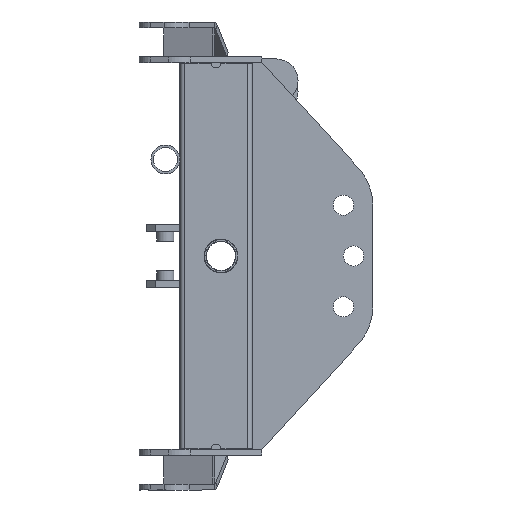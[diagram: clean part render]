
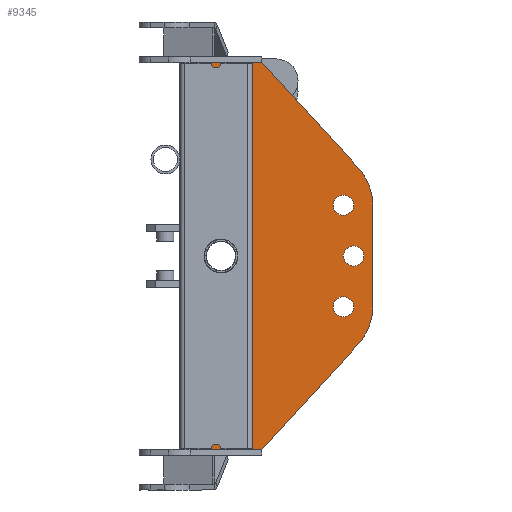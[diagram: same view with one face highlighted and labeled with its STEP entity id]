
A CAD part, front view. The second image highlights one B-rep face of the part: STEP entity #9345.
In plain terms, the highlighted planar face has unit normal (0, -1, 0).
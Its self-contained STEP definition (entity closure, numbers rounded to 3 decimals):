
#169 = DIRECTION ( 'NONE',  ( 0., 1., 0. ) ) ;
#335 = DIRECTION ( 'NONE',  ( 0.676, 0., -0.737 ) ) ;
#387 = AXIS2_PLACEMENT_3D ( 'NONE', #11120, #1134, #7557 ) ;
#504 = EDGE_CURVE ( 'NONE', #3840, #2780, #6147, .T. ) ;
#528 = VERTEX_POINT ( 'NONE', #2517 ) ;
#624 = LINE ( 'NONE', #878, #9296 ) ;
#658 = VECTOR ( 'NONE', #1609, 1000. ) ;
#713 = ORIENTED_EDGE ( 'NONE', *, *, #4550, .T. ) ;
#736 = VERTEX_POINT ( 'NONE', #3951 ) ;
#764 = FACE_BOUND ( 'NONE', #10996, .T. ) ;
#767 = VERTEX_POINT ( 'NONE', #10374 ) ;
#878 = CARTESIAN_POINT ( 'NONE',  ( -1600., 161., -401. ) ) ;
#912 = DIRECTION ( 'NONE',  ( 0., 0., -1. ) ) ;
#925 = CARTESIAN_POINT ( 'NONE',  ( -1410., 161., -21. ) ) ;
#1134 = DIRECTION ( 'NONE',  ( 0., 1., 0. ) ) ;
#1163 = DIRECTION ( 'NONE',  ( 0., 1., 0. ) ) ;
#1240 = CIRCLE ( 'NONE', #3890, 120. ) ;
#1275 = EDGE_CURVE ( 'NONE', #6281, #8077, #10644, .T. ) ;
#1335 = CARTESIAN_POINT ( 'NONE',  ( -1685., 161., 0. ) ) ;
#1469 = CARTESIAN_POINT ( 'NONE',  ( -1430.933, 161., -126.238 ) ) ;
#1478 = CARTESIAN_POINT ( 'NONE',  ( -1430.933, 161., 126.238 ) ) ;
#1526 = VERTEX_POINT ( 'NONE', #9705 ) ;
#1609 = DIRECTION ( 'NONE',  ( -0.676, 0., -0.737 ) ) ;
#1966 = DIRECTION ( 'NONE',  ( 0., 0., -1. ) ) ;
#2230 = DIRECTION ( 'NONE',  ( 0., 1., 0. ) ) ;
#2247 = DIRECTION ( 'NONE',  ( 0., 1., 0. ) ) ;
#2355 = VECTOR ( 'NONE', #335, 1000. ) ;
#2475 = FACE_BOUND ( 'NONE', #6931, .T. ) ;
#2517 = CARTESIAN_POINT ( 'NONE',  ( -1430.933, 161., -84.238 ) ) ;
#2635 = EDGE_CURVE ( 'NONE', #2780, #9229, #624, .T. ) ;
#2705 = EDGE_CURVE ( 'NONE', #3306, #10879, #10753, .T. ) ;
#2780 = VERTEX_POINT ( 'NONE', #9240 ) ;
#2791 = DIRECTION ( 'NONE',  ( 0., 1., 0. ) ) ;
#2806 = AXIS2_PLACEMENT_3D ( 'NONE', #11350, #3885, #2928 ) ;
#2928 = DIRECTION ( 'NONE',  ( 0., 0., -1. ) ) ;
#3027 = ORIENTED_EDGE ( 'NONE', *, *, #2705, .T. ) ;
#3256 = ORIENTED_EDGE ( 'NONE', *, *, #8777, .F. ) ;
#3303 = CIRCLE ( 'NONE', #11094, 31. ) ;
#3306 = VERTEX_POINT ( 'NONE', #10938 ) ;
#3328 = FACE_BOUND ( 'NONE', #7604, .T. ) ;
#3438 = VERTEX_POINT ( 'NONE', #8072 ) ;
#3461 = DIRECTION ( 'NONE',  ( 0., 0., 1. ) ) ;
#3464 = ORIENTED_EDGE ( 'NONE', *, *, #5760, .T. ) ;
#3469 = AXIS2_PLACEMENT_3D ( 'NONE', #6491, #4633, #11152 ) ;
#3564 = DIRECTION ( 'NONE',  ( 0., 0., -1. ) ) ;
#3596 = ORIENTED_EDGE ( 'NONE', *, *, #11154, .T. ) ;
#3704 = EDGE_CURVE ( 'NONE', #736, #767, #5062, .T. ) ;
#3767 = VECTOR ( 'NONE', #3564, 1000. ) ;
#3840 = VERTEX_POINT ( 'NONE', #9496 ) ;
#3851 = CARTESIAN_POINT ( 'NONE',  ( -1685., 161., 0. ) ) ;
#3885 = DIRECTION ( 'NONE',  ( 0., 1., 0. ) ) ;
#3890 = AXIS2_PLACEMENT_3D ( 'NONE', #6971, #10583, #9672 ) ;
#3914 = CARTESIAN_POINT ( 'NONE',  ( -1770., 161., 401. ) ) ;
#3919 = FACE_BOUND ( 'NONE', #4311, .T. ) ;
#3951 = CARTESIAN_POINT ( 'NONE',  ( -1370., 161., 103.334 ) ) ;
#4000 = ORIENTED_EDGE ( 'NONE', *, *, #8739, .T. ) ;
#4021 = CIRCLE ( 'NONE', #7350, 31. ) ;
#4088 = DIRECTION ( 'NONE',  ( 0., 0., -1. ) ) ;
#4111 = CARTESIAN_POINT ( 'NONE',  ( -1430.933, 161., 105.238 ) ) ;
#4287 = CARTESIAN_POINT ( 'NONE',  ( -1770., 161., -401. ) ) ;
#4311 = EDGE_LOOP ( 'NONE', ( #713, #3596 ) ) ;
#4434 = VECTOR ( 'NONE', #3461, 1000. ) ;
#4439 = CARTESIAN_POINT ( 'NONE',  ( -1370., 161., 150. ) ) ;
#4450 = AXIS2_PLACEMENT_3D ( 'NONE', #7615, #1163, #1966 ) ;
#4502 = CARTESIAN_POINT ( 'NONE',  ( -1370., 161., -150. ) ) ;
#4550 = EDGE_CURVE ( 'NONE', #7070, #1526, #3303, .T. ) ;
#4633 = DIRECTION ( 'NONE',  ( 0., 1., 0. ) ) ;
#4776 = CARTESIAN_POINT ( 'NONE',  ( 0., 161., 0. ) ) ;
#4784 = LINE ( 'NONE', #9458, #2355 ) ;
#4948 = DIRECTION ( 'NONE',  ( 0., 0., -1. ) ) ;
#4998 = VERTEX_POINT ( 'NONE', #9167 ) ;
#5062 = LINE ( 'NONE', #4439, #3767 ) ;
#5090 = ORIENTED_EDGE ( 'NONE', *, *, #9257, .T. ) ;
#5432 = ORIENTED_EDGE ( 'NONE', *, *, #3704, .F. ) ;
#5735 = DIRECTION ( 'NONE',  ( 1., 0., 0. ) ) ;
#5760 = EDGE_CURVE ( 'NONE', #6063, #4998, #11516, .T. ) ;
#5905 = EDGE_CURVE ( 'NONE', #3840, #767, #1240, .T. ) ;
#5997 = EDGE_CURVE ( 'NONE', #4998, #6063, #9640, .T. ) ;
#6032 = DIRECTION ( 'NONE',  ( 0., 0., -1. ) ) ;
#6063 = VERTEX_POINT ( 'NONE', #1478 ) ;
#6147 = LINE ( 'NONE', #4502, #658 ) ;
#6250 = DIRECTION ( 'NONE',  ( -1., 0., 0. ) ) ;
#6281 = VERTEX_POINT ( 'NONE', #9831 ) ;
#6491 = CARTESIAN_POINT ( 'NONE',  ( -1410., 161., 0. ) ) ;
#6493 = ORIENTED_EDGE ( 'NONE', *, *, #9783, .T. ) ;
#6551 = DIRECTION ( 'NONE',  ( 0., -1., 0. ) ) ;
#6559 = CIRCLE ( 'NONE', #9749, 120. ) ;
#6832 = FACE_OUTER_BOUND ( 'NONE', #8197, .T. ) ;
#6931 = EDGE_LOOP ( 'NONE', ( #3027, #5090 ) ) ;
#6971 = CARTESIAN_POINT ( 'NONE',  ( -1490., 161., -103.334 ) ) ;
#7070 = VERTEX_POINT ( 'NONE', #9440 ) ;
#7203 = ORIENTED_EDGE ( 'NONE', *, *, #11362, .F. ) ;
#7350 = AXIS2_PLACEMENT_3D ( 'NONE', #1335, #2247, #4088 ) ;
#7539 = EDGE_CURVE ( 'NONE', #528, #11821, #8600, .T. ) ;
#7557 = DIRECTION ( 'NONE',  ( 0., 0., -1. ) ) ;
#7604 = EDGE_LOOP ( 'NONE', ( #3464, #11965 ) ) ;
#7615 = CARTESIAN_POINT ( 'NONE',  ( -1430.933, 161., -105.238 ) ) ;
#7758 = DIRECTION ( 'NONE',  ( 0., -1., 0. ) ) ;
#8044 = ORIENTED_EDGE ( 'NONE', *, *, #504, .F. ) ;
#8067 = ORIENTED_EDGE ( 'NONE', *, *, #7539, .T. ) ;
#8072 = CARTESIAN_POINT ( 'NONE',  ( -1401.527, 161., 184.405 ) ) ;
#8077 = VERTEX_POINT ( 'NONE', #8280 ) ;
#8197 = EDGE_LOOP ( 'NONE', ( #8044, #10710, #5432, #4000, #3256, #11106, #7203, #11403 ) ) ;
#8280 = CARTESIAN_POINT ( 'NONE',  ( -1600., 161., 401. ) ) ;
#8414 = DIRECTION ( 'NONE',  ( 0., 0., -1. ) ) ;
#8600 = CIRCLE ( 'NONE', #10294, 21. ) ;
#8739 = EDGE_CURVE ( 'NONE', #736, #3438, #6559, .T. ) ;
#8777 = EDGE_CURVE ( 'NONE', #8077, #3438, #4784, .T. ) ;
#8886 = VECTOR ( 'NONE', #5735, 1000. ) ;
#9083 = AXIS2_PLACEMENT_3D ( 'NONE', #4111, #2230, #6032 ) ;
#9167 = CARTESIAN_POINT ( 'NONE',  ( -1430.933, 161., 84.238 ) ) ;
#9229 = VERTEX_POINT ( 'NONE', #4287 ) ;
#9240 = CARTESIAN_POINT ( 'NONE',  ( -1600., 161., -401. ) ) ;
#9257 = EDGE_CURVE ( 'NONE', #10879, #3306, #9578, .T. ) ;
#9296 = VECTOR ( 'NONE', #6250, 1000. ) ;
#9345 = ADVANCED_FACE ( 'NONE', ( #764, #3328, #2475, #3919, #6832 ), #10225, .T. ) ;
#9440 = CARTESIAN_POINT ( 'NONE',  ( -1685., 161., 31. ) ) ;
#9458 = CARTESIAN_POINT ( 'NONE',  ( -1600., 161., 401. ) ) ;
#9496 = CARTESIAN_POINT ( 'NONE',  ( -1401.527, 161., -184.405 ) ) ;
#9578 = CIRCLE ( 'NONE', #387, 21. ) ;
#9640 = CIRCLE ( 'NONE', #9083, 21. ) ;
#9672 = DIRECTION ( 'NONE',  ( 0., 0., -1. ) ) ;
#9705 = CARTESIAN_POINT ( 'NONE',  ( -1685., 161., -31. ) ) ;
#9749 = AXIS2_PLACEMENT_3D ( 'NONE', #10490, #7758, #4948 ) ;
#9783 = EDGE_CURVE ( 'NONE', #11821, #528, #10733, .T. ) ;
#9831 = CARTESIAN_POINT ( 'NONE',  ( -1770., 161., 401. ) ) ;
#10206 = CARTESIAN_POINT ( 'NONE',  ( -1430.933, 161., -105.238 ) ) ;
#10225 = PLANE ( 'NONE',  #11545 ) ;
#10294 = AXIS2_PLACEMENT_3D ( 'NONE', #10206, #2791, #912 ) ;
#10356 = DIRECTION ( 'NONE',  ( 0., 0., -1. ) ) ;
#10374 = CARTESIAN_POINT ( 'NONE',  ( -1370., 161., -103.334 ) ) ;
#10490 = CARTESIAN_POINT ( 'NONE',  ( -1490., 161., 103.334 ) ) ;
#10583 = DIRECTION ( 'NONE',  ( 0., -1., 0. ) ) ;
#10644 = LINE ( 'NONE', #3914, #8886 ) ;
#10710 = ORIENTED_EDGE ( 'NONE', *, *, #5905, .T. ) ;
#10733 = CIRCLE ( 'NONE', #4450, 21. ) ;
#10753 = CIRCLE ( 'NONE', #3469, 21. ) ;
#10879 = VERTEX_POINT ( 'NONE', #925 ) ;
#10938 = CARTESIAN_POINT ( 'NONE',  ( -1410., 161., 21. ) ) ;
#10996 = EDGE_LOOP ( 'NONE', ( #8067, #6493 ) ) ;
#11094 = AXIS2_PLACEMENT_3D ( 'NONE', #3851, #169, #10356 ) ;
#11106 = ORIENTED_EDGE ( 'NONE', *, *, #1275, .F. ) ;
#11120 = CARTESIAN_POINT ( 'NONE',  ( -1410., 161., 0. ) ) ;
#11152 = DIRECTION ( 'NONE',  ( 0., 0., -1. ) ) ;
#11154 = EDGE_CURVE ( 'NONE', #1526, #7070, #4021, .T. ) ;
#11350 = CARTESIAN_POINT ( 'NONE',  ( -1430.933, 161., 105.238 ) ) ;
#11362 = EDGE_CURVE ( 'NONE', #9229, #6281, #11706, .T. ) ;
#11403 = ORIENTED_EDGE ( 'NONE', *, *, #2635, .F. ) ;
#11516 = CIRCLE ( 'NONE', #2806, 21. ) ;
#11545 = AXIS2_PLACEMENT_3D ( 'NONE', #4776, #6551, #8414 ) ;
#11706 = LINE ( 'NONE', #11894, #4434 ) ;
#11821 = VERTEX_POINT ( 'NONE', #1469 ) ;
#11894 = CARTESIAN_POINT ( 'NONE',  ( -1770., 161., -401. ) ) ;
#11965 = ORIENTED_EDGE ( 'NONE', *, *, #5997, .T. ) ;
